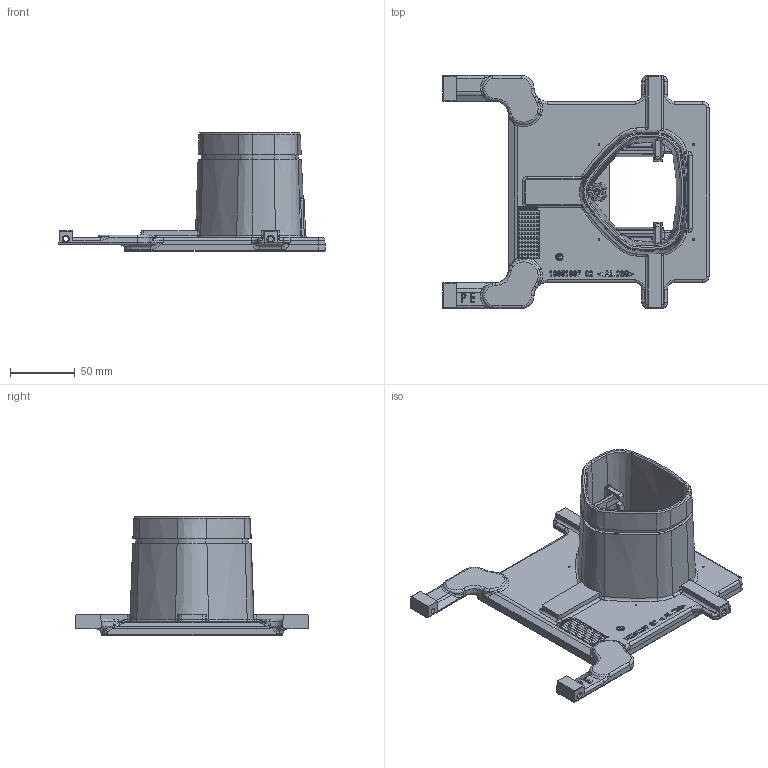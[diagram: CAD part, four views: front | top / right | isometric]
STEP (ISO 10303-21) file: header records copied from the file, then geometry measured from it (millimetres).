
FILE_DESCRIPTION(('CATIA V5 STEP 214'),'2;1');
FILE_NAME('C:\Temp\ddxv6\122143\ADAPTER_MC_MOTORMONTAGE.stp','2010-11-19T09:25:51+00:00',('Leopold Kostal'),('Kostal GmbH'),'CATIA Version 5 Release 19 SP 8 (IN-10)','CATIA V5 STEP AP214','none');
FILE_SCHEMA(('AUTOMOTIVE_DESIGN { 1 0 10303 214 1 1 1 1 }'));
Length unit declared in the file: millimetre
Products named in the file (1): 10014978-1-0002A_AllCATPart
Bounding box: 205.38 x 179.89 x 91.5 mm (x, y, z)
Volume: 387446.7 mm3; surface area: 107156.9 mm2
Topology: 1 solids, 1 shells, 1929 faces, 5048 edges, 3248 vertices
Faces by surface type: plane 956, extrusion 423, cylinder 232, torus 121, bspline 98, cone 81, sphere 18
Entity records: 64344 total; most frequent: CARTESIAN_POINT 23568, ORIENTED_EDGE 10044, DIRECTION 5502, EDGE_CURVE 5022, VERTEX_POINT 3248, VECTOR 3184, LINE 2761, EDGE_LOOP 2088
